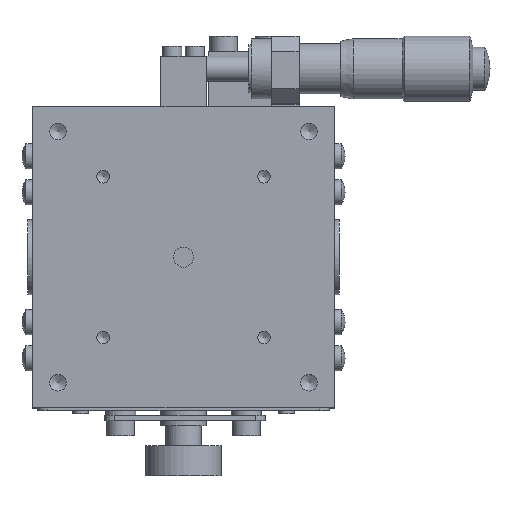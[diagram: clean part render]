
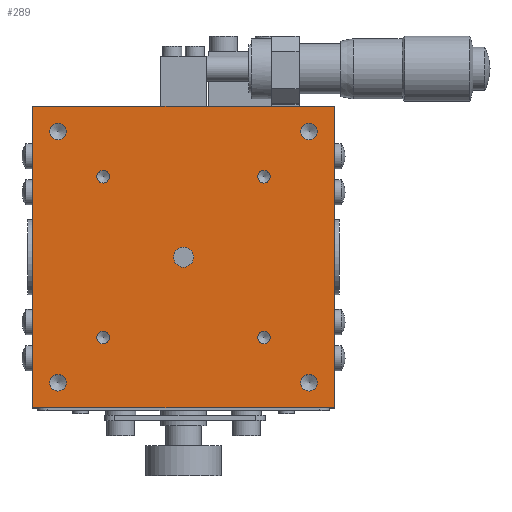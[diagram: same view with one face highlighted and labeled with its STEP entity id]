
A CAD part, top view. The second image highlights one B-rep face of the part: STEP entity #289.
In plain terms, the highlighted planar face has unit normal (0, 0, 1).
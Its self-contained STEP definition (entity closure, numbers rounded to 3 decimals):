
#289 = ADVANCED_FACE( '', ( #687, #688, #689, #690, #691, #692, #693, #694, #695, #696 ), #697, .T. );
#687 = FACE_BOUND( '', #1246, .T. );
#688 = FACE_BOUND( '', #1247, .T. );
#689 = FACE_BOUND( '', #1248, .T. );
#690 = FACE_BOUND( '', #1249, .T. );
#691 = FACE_BOUND( '', #1250, .T. );
#692 = FACE_BOUND( '', #1251, .T. );
#693 = FACE_BOUND( '', #1252, .T. );
#694 = FACE_BOUND( '', #1253, .T. );
#695 = FACE_OUTER_BOUND( '', #1254, .T. );
#696 = FACE_BOUND( '', #1255, .T. );
#697 = PLANE( '', #1256 );
#1246 = EDGE_LOOP( '', ( #2374 ) );
#1247 = EDGE_LOOP( '', ( #2375 ) );
#1248 = EDGE_LOOP( '', ( #2376 ) );
#1249 = EDGE_LOOP( '', ( #2377 ) );
#1250 = EDGE_LOOP( '', ( #2378 ) );
#1251 = EDGE_LOOP( '', ( #2379 ) );
#1252 = EDGE_LOOP( '', ( #2380 ) );
#1253 = EDGE_LOOP( '', ( #2381 ) );
#1254 = EDGE_LOOP( '', ( #2382, #2383, #2384, #2385 ) );
#1255 = EDGE_LOOP( '', ( #2386 ) );
#1256 = AXIS2_PLACEMENT_3D( '', #2387, #2388, #2389 );
#2374 = ORIENTED_EDGE( '', *, *, #3228, .T. );
#2375 = ORIENTED_EDGE( '', *, *, #3229, .T. );
#2376 = ORIENTED_EDGE( '', *, *, #3230, .T. );
#2377 = ORIENTED_EDGE( '', *, *, #3231, .T. );
#2378 = ORIENTED_EDGE( '', *, *, #3232, .T. );
#2379 = ORIENTED_EDGE( '', *, *, #3233, .T. );
#2380 = ORIENTED_EDGE( '', *, *, #3234, .T. );
#2381 = ORIENTED_EDGE( '', *, *, #3235, .T. );
#2382 = ORIENTED_EDGE( '', *, *, #3219, .F. );
#2383 = ORIENTED_EDGE( '', *, *, #3236, .F. );
#2384 = ORIENTED_EDGE( '', *, *, #3237, .F. );
#2385 = ORIENTED_EDGE( '', *, *, #3213, .F. );
#2386 = ORIENTED_EDGE( '', *, *, #3238, .T. );
#2387 = CARTESIAN_POINT( '', ( 0., 0., 25. ) );
#2388 = DIRECTION( '', ( 0., 0., 1. ) );
#2389 = DIRECTION( '', ( -1., 0., 0. ) );
#3213 = EDGE_CURVE( '', #3808, #3810, #3811, .T. );
#3219 = EDGE_CURVE( '', #3819, #3808, #3821, .T. );
#3228 = EDGE_CURVE( '', #3838, #3838, #3839, .T. );
#3229 = EDGE_CURVE( '', #3840, #3840, #3841, .T. );
#3230 = EDGE_CURVE( '', #3842, #3842, #3843, .T. );
#3231 = EDGE_CURVE( '', #3844, #3844, #3845, .T. );
#3232 = EDGE_CURVE( '', #3846, #3846, #3847, .T. );
#3233 = EDGE_CURVE( '', #3848, #3848, #3849, .T. );
#3234 = EDGE_CURVE( '', #3850, #3850, #3851, .T. );
#3235 = EDGE_CURVE( '', #3852, #3852, #3853, .T. );
#3236 = EDGE_CURVE( '', #3854, #3819, #3855, .T. );
#3237 = EDGE_CURVE( '', #3810, #3854, #3856, .T. );
#3238 = EDGE_CURVE( '', #3857, #3857, #3858, .T. );
#3808 = VERTEX_POINT( '', #4906 );
#3810 = VERTEX_POINT( '', #4909 );
#3811 = LINE( '', #4910, #4911 );
#3819 = VERTEX_POINT( '', #4920 );
#3821 = LINE( '', #4923, #4924 );
#3838 = VERTEX_POINT( '', #4947 );
#3839 = CIRCLE( '', #4948, 1.25 );
#3840 = VERTEX_POINT( '', #4949 );
#3841 = CIRCLE( '', #4950, 1.25 );
#3842 = VERTEX_POINT( '', #4951 );
#3843 = CIRCLE( '', #4952, 1.25 );
#3844 = VERTEX_POINT( '', #4953 );
#3845 = CIRCLE( '', #4954, 1.25 );
#3846 = VERTEX_POINT( '', #4955 );
#3847 = CIRCLE( '', #4956, 1.65 );
#3848 = VERTEX_POINT( '', #4957 );
#3849 = CIRCLE( '', #4958, 1.65 );
#3850 = VERTEX_POINT( '', #4959 );
#3851 = CIRCLE( '', #4960, 1.65 );
#3852 = VERTEX_POINT( '', #4961 );
#3853 = CIRCLE( '', #4962, 1.65 );
#3854 = VERTEX_POINT( '', #4963 );
#3855 = LINE( '', #4964, #4965 );
#3856 = LINE( '', #4966, #4967 );
#3857 = VERTEX_POINT( '', #4968 );
#3858 = CIRCLE( '', #4969, 2. );
#4906 = CARTESIAN_POINT( '', ( 30., 30., 25. ) );
#4909 = CARTESIAN_POINT( '', ( 30., -30., 25. ) );
#4910 = CARTESIAN_POINT( '', ( 30., 0., 25. ) );
#4911 = VECTOR( '', #5667, 1000. );
#4920 = CARTESIAN_POINT( '', ( -30., 30., 25. ) );
#4923 = CARTESIAN_POINT( '', ( 0., 30., 25. ) );
#4924 = VECTOR( '', #5679, 1000. );
#4947 = CARTESIAN_POINT( '', ( -16., 14.75, 25. ) );
#4948 = AXIS2_PLACEMENT_3D( '', #5692, #5693, #5694 );
#4949 = CARTESIAN_POINT( '', ( 16., 14.75, 25. ) );
#4950 = AXIS2_PLACEMENT_3D( '', #5695, #5696, #5697 );
#4951 = CARTESIAN_POINT( '', ( 16., -17.25, 25. ) );
#4952 = AXIS2_PLACEMENT_3D( '', #5698, #5699, #5700 );
#4953 = CARTESIAN_POINT( '', ( -16., -17.25, 25. ) );
#4954 = AXIS2_PLACEMENT_3D( '', #5701, #5702, #5703 );
#4955 = CARTESIAN_POINT( '', ( 25., -26.65, 25. ) );
#4956 = AXIS2_PLACEMENT_3D( '', #5704, #5705, #5706 );
#4957 = CARTESIAN_POINT( '', ( 25., 23.35, 25. ) );
#4958 = AXIS2_PLACEMENT_3D( '', #5707, #5708, #5709 );
#4959 = CARTESIAN_POINT( '', ( -25., 23.35, 25. ) );
#4960 = AXIS2_PLACEMENT_3D( '', #5710, #5711, #5712 );
#4961 = CARTESIAN_POINT( '', ( -25., -26.65, 25. ) );
#4962 = AXIS2_PLACEMENT_3D( '', #5713, #5714, #5715 );
#4963 = CARTESIAN_POINT( '', ( -30., -30., 25. ) );
#4964 = CARTESIAN_POINT( '', ( -30., 0., 25. ) );
#4965 = VECTOR( '', #5716, 1000. );
#4966 = CARTESIAN_POINT( '', ( 0., -30., 25. ) );
#4967 = VECTOR( '', #5717, 1000. );
#4968 = CARTESIAN_POINT( '', ( 0., 2., 25. ) );
#4969 = AXIS2_PLACEMENT_3D( '', #5718, #5719, #5720 );
#5667 = DIRECTION( '', ( 0., -1., 0. ) );
#5679 = DIRECTION( '', ( 1., 0., 0. ) );
#5692 = CARTESIAN_POINT( '', ( -16., 16., 25. ) );
#5693 = DIRECTION( '', ( 0., 0., -1. ) );
#5694 = DIRECTION( '', ( 0., -1., 0. ) );
#5695 = CARTESIAN_POINT( '', ( 16., 16., 25. ) );
#5696 = DIRECTION( '', ( 0., 0., -1. ) );
#5697 = DIRECTION( '', ( 0., -1., 0. ) );
#5698 = CARTESIAN_POINT( '', ( 16., -16., 25. ) );
#5699 = DIRECTION( '', ( 0., 0., -1. ) );
#5700 = DIRECTION( '', ( 0., -1., 0. ) );
#5701 = CARTESIAN_POINT( '', ( -16., -16., 25. ) );
#5702 = DIRECTION( '', ( 0., 0., -1. ) );
#5703 = DIRECTION( '', ( 0., -1., 0. ) );
#5704 = CARTESIAN_POINT( '', ( 25., -25., 25. ) );
#5705 = DIRECTION( '', ( 0., 0., -1. ) );
#5706 = DIRECTION( '', ( 0., -1., 0. ) );
#5707 = CARTESIAN_POINT( '', ( 25., 25., 25. ) );
#5708 = DIRECTION( '', ( 0., 0., -1. ) );
#5709 = DIRECTION( '', ( 0., -1., 0. ) );
#5710 = CARTESIAN_POINT( '', ( -25., 25., 25. ) );
#5711 = DIRECTION( '', ( 0., 0., -1. ) );
#5712 = DIRECTION( '', ( 0., -1., 0. ) );
#5713 = CARTESIAN_POINT( '', ( -25., -25., 25. ) );
#5714 = DIRECTION( '', ( 0., 0., -1. ) );
#5715 = DIRECTION( '', ( 0., -1., 0. ) );
#5716 = DIRECTION( '', ( 0., 1., 0. ) );
#5717 = DIRECTION( '', ( -1., 0., 0. ) );
#5718 = CARTESIAN_POINT( '', ( 0., 0., 25. ) );
#5719 = DIRECTION( '', ( 0., 0., -1. ) );
#5720 = DIRECTION( '', ( 0., 1., 0. ) );
